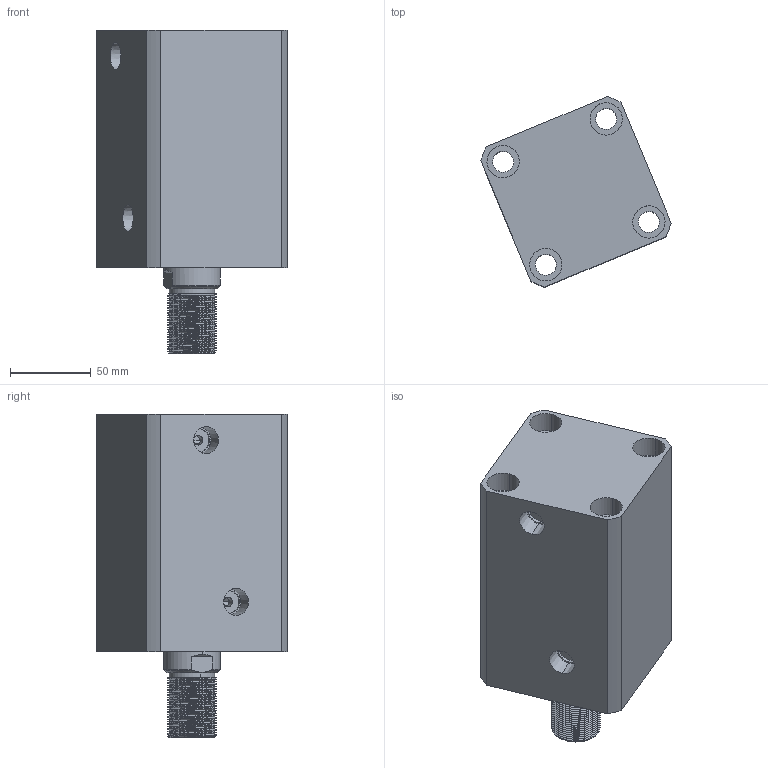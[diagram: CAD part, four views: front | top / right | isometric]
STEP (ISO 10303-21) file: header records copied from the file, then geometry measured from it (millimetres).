
FILE_DESCRIPTION (( 'STEP AP214' ), '1' );
FILE_NAME ('chtb-sd63x80w_asm.STEP', '2018-05-19T02:02:01', ( 'Windows' ), ( 'Microsoft' ), 'SwSTEP 2.0', 'SolidWorks 2015', '' );
FILE_SCHEMA (( 'AUTOMOTIVE_DESIGN' ));
Length unit declared in the file: millimetre
Products named in the file (4): CHTB63X80WHSG; CHTB63X80NBT; CHTB-63QG; chtb-sd63x80w_asm
Assembly tree (3 placements, depth 2):
  chtb-sd63x80w_asm
    CHTB-63QG
    CHTB63X80NBT
    CHTB63X80WHSG
Bounding box: 117.81 x 117.81 x 200 mm (x, y, z)
Volume: 1051928.2 mm3; surface area: 174470.2 mm2
Topology: 3 solids, 3 shells, 219 faces, 625 edges, 427 vertices
Faces by surface type: cylinder 150, plane 36, bspline 14, cone 13, torus 6
Entity records: 22208 total; most frequent: CARTESIAN_POINT 16953, ORIENTED_EDGE 1242, DIRECTION 881, EDGE_CURVE 621, VERTEX_POINT 427, AXIS2_PLACEMENT_3D 346, EDGE_LOOP 252, FACE_OUTER_BOUND 219
